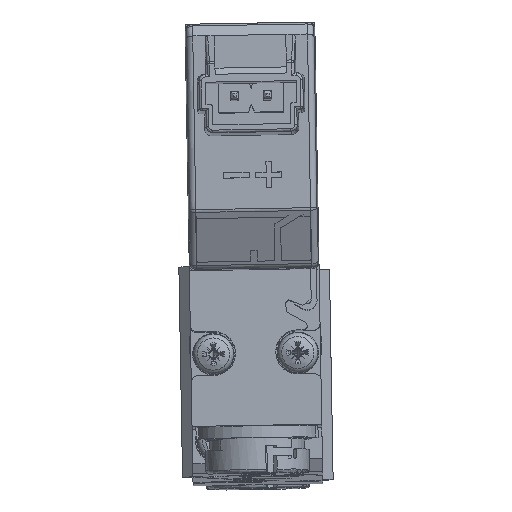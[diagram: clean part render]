
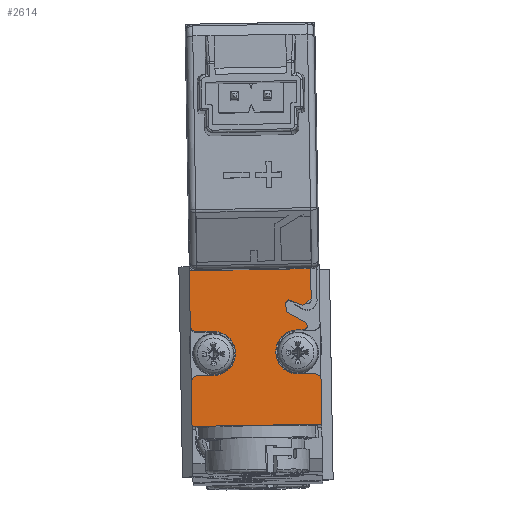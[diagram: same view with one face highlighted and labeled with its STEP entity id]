
A CAD part, left-side view. The second image highlights one B-rep face of the part: STEP entity #2614.
In plain terms, the highlighted planar face has unit normal (-1, 0, 0.017).
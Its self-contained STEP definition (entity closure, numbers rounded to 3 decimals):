
#1507=CARTESIAN_POINT('',(-40.4,5.106,6.018));
#1508=VERTEX_POINT('',#1507);
#1515=CARTESIAN_POINT('',(-40.4,-4.243,6.181));
#1516=VERTEX_POINT('',#1515);
#1517=CARTESIAN_POINT('',(-40.4,-4.243,6.181));
#1518=DIRECTION('',(0.,1.,-0.017));
#1519=VECTOR('',#1518,9.35);
#1520=LINE('',#1517,#1519);
#1521=EDGE_CURVE('',#1516,#1508,#1520,.T.);
#1921=CARTESIAN_POINT('',(-40.609,-5.102,-5.804));
#1922=VERTEX_POINT('',#1921);
#1929=CARTESIAN_POINT('',(-40.609,4.896,-5.979));
#1930=VERTEX_POINT('',#1929);
#1931=CARTESIAN_POINT('',(-40.609,4.896,-5.979));
#1932=DIRECTION('',(0.,-1.,0.017));
#1933=VECTOR('',#1932,10.);
#1934=LINE('',#1931,#1933);
#1935=EDGE_CURVE('',#1930,#1922,#1934,.T.);
#1996=CARTESIAN_POINT('',(-40.472,-3.82,2.033));
#1997=VERTEX_POINT('',#1996);
#2004=CARTESIAN_POINT('',(-40.482,-3.68,1.471));
#2005=VERTEX_POINT('',#2004);
#2006=CARTESIAN_POINT('',(-40.476,-3.675,1.771));
#2007=DIRECTION('',(1.,0.,-0.017));
#2008=DIRECTION('',(-0.017,-0.017,-1.));
#2009=AXIS2_PLACEMENT_3D('',#2006,#2007,#2008);
#2010=CIRCLE('',#2009,0.3);
#2011=EDGE_CURVE('',#1997,#2005,#2010,.T.);
#2128=CARTESIAN_POINT('',(-40.55,-5.043,-2.405));
#2129=VERTEX_POINT('',#2128);
#2136=CARTESIAN_POINT('',(-40.609,-5.102,-5.804));
#2137=DIRECTION('',(0.017,0.017,1.));
#2138=VECTOR('',#2137,3.4);
#2139=LINE('',#2136,#2138);
#2140=EDGE_CURVE('',#1922,#2129,#2139,.T.);
#2192=CARTESIAN_POINT('',(-40.541,3.215,-2.049));
#2193=VERTEX_POINT('',#2192);
#2200=CARTESIAN_POINT('',(-40.482,3.274,1.35));
#2201=VERTEX_POINT('',#2200);
#2202=CARTESIAN_POINT('',(-40.511,3.244,-0.35));
#2203=DIRECTION('',(1.,0.,-0.017));
#2204=DIRECTION('',(-0.017,-0.017,-1.));
#2205=AXIS2_PLACEMENT_3D('',#2202,#2203,#2204);
#2206=CIRCLE('',#2205,1.7);
#2207=EDGE_CURVE('',#2201,#2193,#2206,.T.);
#2285=CARTESIAN_POINT('',(-40.482,4.524,1.328));
#2286=VERTEX_POINT('',#2285);
#2287=CARTESIAN_POINT('',(-40.482,4.524,1.328));
#2288=DIRECTION('',(0.,-1.,0.017));
#2289=VECTOR('',#2288,1.25);
#2290=LINE('',#2287,#2289);
#2291=EDGE_CURVE('',#2286,#2201,#2290,.T.);
#2309=CARTESIAN_POINT('',(-40.473,5.033,1.819));
#2310=VERTEX_POINT('',#2309);
#2311=CARTESIAN_POINT('',(-40.473,4.533,1.828));
#2312=DIRECTION('',(-1.,0.,0.017));
#2313=DIRECTION('',(0.,-1.,0.017));
#2314=AXIS2_PLACEMENT_3D('',#2311,#2312,#2313);
#2315=CIRCLE('',#2314,0.5);
#2316=EDGE_CURVE('',#2310,#2286,#2315,.T.);
#2333=CARTESIAN_POINT('',(-40.55,4.956,-2.58));
#2334=VERTEX_POINT('',#2333);
#2341=CARTESIAN_POINT('',(-40.541,4.465,-2.071));
#2342=VERTEX_POINT('',#2341);
#2343=CARTESIAN_POINT('',(-40.55,4.456,-2.571));
#2344=DIRECTION('',(-1.,0.,0.017));
#2345=DIRECTION('',(-0.017,-0.017,-1.));
#2346=AXIS2_PLACEMENT_3D('',#2343,#2344,#2345);
#2347=CIRCLE('',#2346,0.5);
#2348=EDGE_CURVE('',#2342,#2334,#2347,.T.);
#2366=CARTESIAN_POINT('',(-40.541,3.215,-2.049));
#2367=DIRECTION('',(0.,1.,-0.017));
#2368=VECTOR('',#2367,1.25);
#2369=LINE('',#2366,#2368);
#2370=EDGE_CURVE('',#2193,#2342,#2369,.T.);
#2392=CARTESIAN_POINT('',(-40.482,-3.225,1.463));
#2393=VERTEX_POINT('',#2392);
#2400=CARTESIAN_POINT('',(-40.541,-3.284,-1.936));
#2401=VERTEX_POINT('',#2400);
#2402=CARTESIAN_POINT('',(-40.511,-3.255,-0.236));
#2403=DIRECTION('',(1.,0.,-0.017));
#2404=DIRECTION('',(0.017,0.017,1.));
#2405=AXIS2_PLACEMENT_3D('',#2402,#2403,#2404);
#2406=CIRCLE('',#2405,1.7);
#2407=EDGE_CURVE('',#2401,#2393,#2406,.T.);
#2467=CARTESIAN_POINT('',(-40.482,-3.225,1.463));
#2468=DIRECTION('',(0.0,-1.,0.017));
#2469=VECTOR('',#2468,0.455);
#2470=LINE('',#2467,#2469);
#2471=EDGE_CURVE('',#2393,#2005,#2470,.T.);
#2492=CARTESIAN_POINT('',(-40.541,-4.534,-1.914));
#2493=VERTEX_POINT('',#2492);
#2494=CARTESIAN_POINT('',(-40.541,-4.534,-1.914));
#2495=DIRECTION('',(0.,1.,-0.017));
#2496=VECTOR('',#2495,1.25);
#2497=LINE('',#2494,#2496);
#2498=EDGE_CURVE('',#2493,#2401,#2497,.T.);
#2516=CARTESIAN_POINT('',(-40.55,-4.543,-2.414));
#2517=DIRECTION('',(-1.,0.,0.017));
#2518=DIRECTION('',(0.,1.,-0.017));
#2519=AXIS2_PLACEMENT_3D('',#2516,#2517,#2518);
#2520=CIRCLE('',#2519,0.5);
#2521=EDGE_CURVE('',#2129,#2493,#2520,.T.);
#2527=CARTESIAN_POINT('',(-40.504,0.002,0.107));
#2528=DIRECTION('',(-1.,0.,0.017));
#2529=DIRECTION('',(0.,-1.,0.017));
#2530=AXIS2_PLACEMENT_3D('',#2527,#2528,#2529);
#2531=PLANE('',#2530);
#2532=ORIENTED_EDGE('',*,*,#2011,.F.);
#2533=CARTESIAN_POINT('',(-40.457,-2.351,2.848));
#2534=VERTEX_POINT('',#2533);
#2535=CARTESIAN_POINT('',(-40.472,-3.82,2.033));
#2536=DIRECTION('',(0.009,0.875,0.485));
#2537=VECTOR('',#2536,1.68);
#2538=LINE('',#2535,#2537);
#2539=EDGE_CURVE('',#1997,#2534,#2538,.T.);
#2540=ORIENTED_EDGE('',*,*,#2539,.T.);
#2541=CARTESIAN_POINT('',(-40.445,-2.338,3.548));
#2542=VERTEX_POINT('',#2541);
#2543=CARTESIAN_POINT('',(-40.457,-2.351,2.848));
#2544=DIRECTION('',(0.017,0.017,1.));
#2545=VECTOR('',#2544,0.7);
#2546=LINE('',#2543,#2545);
#2547=EDGE_CURVE('',#2534,#2542,#2546,.T.);
#2548=ORIENTED_EDGE('',*,*,#2547,.T.);
#2549=CARTESIAN_POINT('',(-40.441,-2.534,3.792));
#2550=VERTEX_POINT('',#2549);
#2551=CARTESIAN_POINT('',(-40.445,-2.338,3.548));
#2552=DIRECTION('',(0.013,-0.625,0.78));
#2553=VECTOR('',#2552,0.313);
#2554=LINE('',#2551,#2553);
#2555=EDGE_CURVE('',#2542,#2550,#2554,.T.);
#2556=ORIENTED_EDGE('',*,*,#2555,.T.);
#2557=CARTESIAN_POINT('',(-40.449,-3.631,3.349));
#2558=VERTEX_POINT('',#2557);
#2559=CARTESIAN_POINT('',(-40.441,-2.534,3.792));
#2560=DIRECTION('',(-0.007,-0.927,-0.375));
#2561=VECTOR('',#2560,1.183);
#2562=LINE('',#2559,#2561);
#2563=EDGE_CURVE('',#2550,#2558,#2562,.T.);
#2564=ORIENTED_EDGE('',*,*,#2563,.T.);
#2565=CARTESIAN_POINT('',(-40.446,-3.858,3.488));
#2566=VERTEX_POINT('',#2565);
#2567=CARTESIAN_POINT('',(-40.433,-3.226,4.263));
#2568=DIRECTION('',(-1.,0.,0.017));
#2569=DIRECTION('',(0.016,0.405,0.914));
#2570=AXIS2_PLACEMENT_3D('',#2567,#2568,#2569);
#2571=CIRCLE('',#2570,1.0);
#2572=EDGE_CURVE('',#2558,#2566,#2571,.T.);
#2573=ORIENTED_EDGE('',*,*,#2572,.T.);
#2574=CARTESIAN_POINT('',(-40.439,-4.282,3.927));
#2575=VERTEX_POINT('',#2574);
#2576=CARTESIAN_POINT('',(-40.446,-3.858,3.488));
#2577=DIRECTION('',(0.012,-0.695,0.719));
#2578=VECTOR('',#2577,0.611);
#2579=LINE('',#2576,#2578);
#2580=EDGE_CURVE('',#2566,#2575,#2579,.T.);
#2581=ORIENTED_EDGE('',*,*,#2580,.T.);
#2582=CARTESIAN_POINT('',(-40.439,-4.282,3.927));
#2583=DIRECTION('',(0.017,0.017,1.));
#2584=VECTOR('',#2583,2.254);
#2585=LINE('',#2582,#2584);
#2586=EDGE_CURVE('',#2575,#1516,#2585,.T.);
#2587=ORIENTED_EDGE('',*,*,#2586,.T.);
#2588=ORIENTED_EDGE('',*,*,#1521,.T.);
#2589=CARTESIAN_POINT('',(-40.4,5.106,6.018));
#2590=DIRECTION('',(-0.017,-0.017,-1.));
#2591=VECTOR('',#2590,4.2);
#2592=LINE('',#2589,#2591);
#2593=EDGE_CURVE('',#1508,#2310,#2592,.T.);
#2594=ORIENTED_EDGE('',*,*,#2593,.T.);
#2595=ORIENTED_EDGE('',*,*,#2316,.T.);
#2596=ORIENTED_EDGE('',*,*,#2291,.T.);
#2597=ORIENTED_EDGE('',*,*,#2207,.T.);
#2598=ORIENTED_EDGE('',*,*,#2370,.T.);
#2599=ORIENTED_EDGE('',*,*,#2348,.T.);
#2600=CARTESIAN_POINT('',(-40.55,4.956,-2.58));
#2601=DIRECTION('',(-0.017,-0.017,-1.));
#2602=VECTOR('',#2601,3.4);
#2603=LINE('',#2600,#2602);
#2604=EDGE_CURVE('',#2334,#1930,#2603,.T.);
#2605=ORIENTED_EDGE('',*,*,#2604,.T.);
#2606=ORIENTED_EDGE('',*,*,#1935,.T.);
#2607=ORIENTED_EDGE('',*,*,#2140,.T.);
#2608=ORIENTED_EDGE('',*,*,#2521,.T.);
#2609=ORIENTED_EDGE('',*,*,#2498,.T.);
#2610=ORIENTED_EDGE('',*,*,#2407,.T.);
#2611=ORIENTED_EDGE('',*,*,#2471,.T.);
#2612=EDGE_LOOP('',(#2532,#2540,#2548,#2556,#2564,#2573,#2581,#2587,#2588,#2594,#2595,#2596,#2597,#2598,#2599,#2605,#2606,#2607,#2608,#2609,#2610,#2611));
#2613=FACE_OUTER_BOUND('',#2612,.T.);
#2614=ADVANCED_FACE('',(#2613),#2531,.T.);
